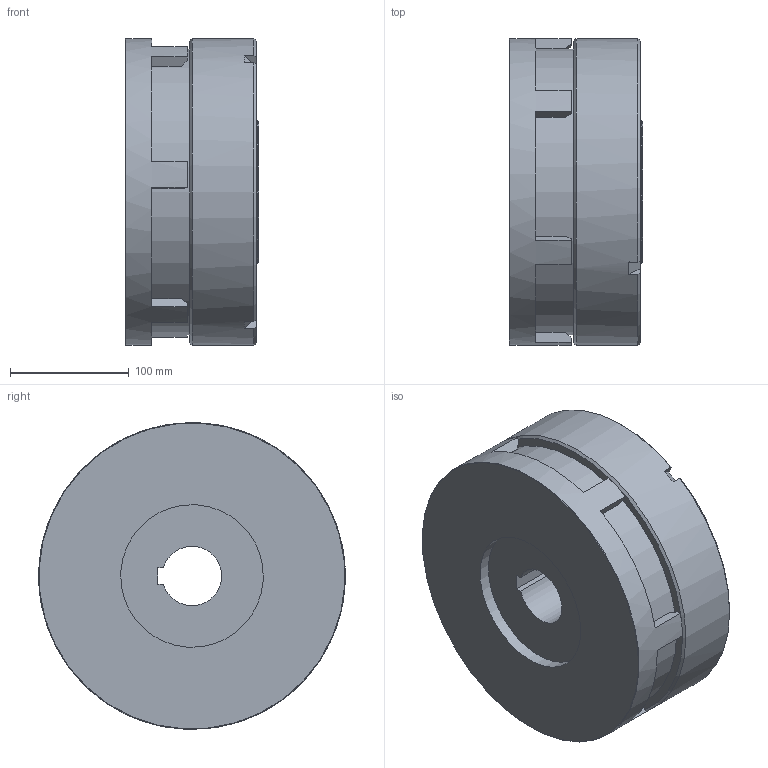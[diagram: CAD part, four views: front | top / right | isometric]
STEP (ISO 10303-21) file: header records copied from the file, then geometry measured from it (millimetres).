
FILE_DESCRIPTION((''),'2;1');
FILE_NAME('\\Srv-tecnico\dati\UFFICIO TECNICO\ARCHIVIO INVENTOR\DISEGNI\UFFICIO TECNICO\05_Friz_Elettromagnetiche_Lamellari\05_05 ESB_S\05_05_260_01 ESB260_S\05_05_260_01 ESB260_S.stp','2012-01-23T10:43:31',('Matteocad'),(''),'Autodesk Inventor 2010','Autodesk Inventor 2010','');
FILE_SCHEMA(('AUTOMOTIVE_DESIGN { 1 0 10303 214 1 1 1 1 }'));
Length unit declared in the file: millimetre
Products named in the file (2): 05_05_260_01 ESB260_S.iam (Livello di dettaglio sostituto1); 05_05_260_01 ESB260_S_Sostituto_1
Assembly tree (1 placements, depth 2):
  05_05_260_01 ESB260_S.iam (Livello di dettaglio sostituto1)
    05_05_260_01 ESB260_S_Sostituto_1
Bounding box: 112 x 258 x 258 mm (x, y, z)
Volume: 5053445.2 mm3; surface area: 314044.8 mm2
Topology: 2 solids, 2 shells, 65 faces, 169 edges, 111 vertices
Faces by surface type: plane 43, cone 13, cylinder 8, bspline 1
Full cylindrical faces by diameter (mm): 120 x2, 140 x1, 240 x1, 241 x1, 258 x2
Entity records: 2054 total; most frequent: CARTESIAN_POINT 392, DIRECTION 327, ORIENTED_EDGE 308, EDGE_CURVE 154, AXIS2_PLACEMENT_3D 124, VERTEX_POINT 108, EDGE_LOOP 84, VECTOR 79
